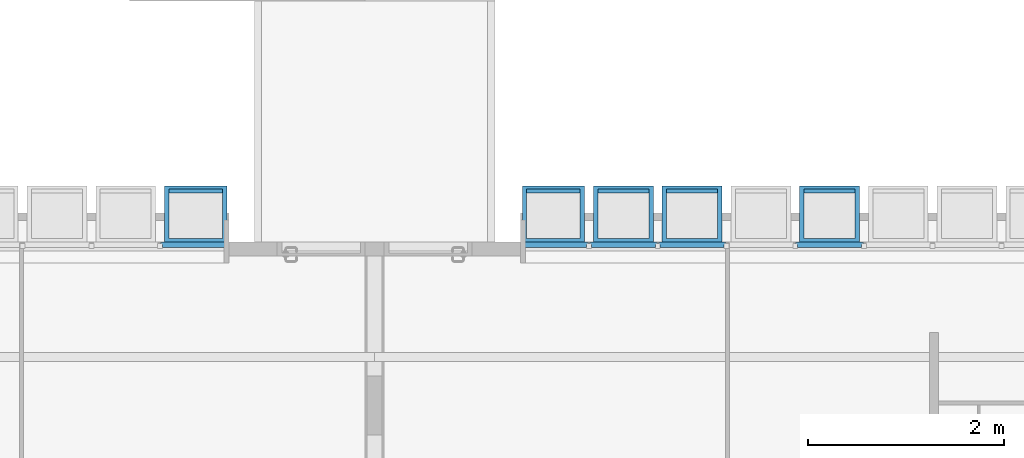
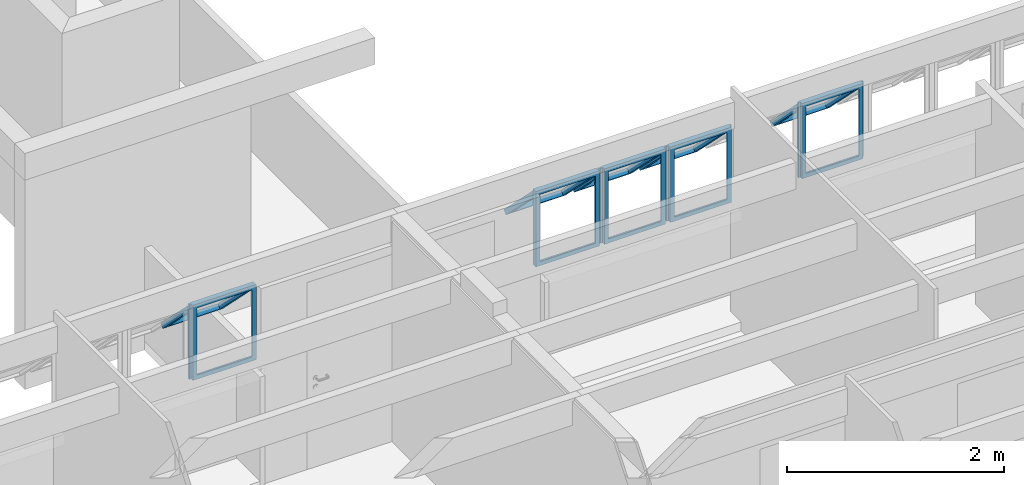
# One storey, part 30 of 37: 5 building element parts, 7 elements without a shape of their own.
"""IFC2X3 building model written with IfcOpenShell, lengths in millimetres."""

from ifc_helpers import new_model, entity, si_unit, converted_unit, derived_unit, money_unit, direction, frame, origin_with_axes, place, context, subcontext, project, spatial, faceted_brep, source, transform, mapped, material, type_object, element, aggregate, save


model = new_model("IFC2X3")

# Units and contexts
model_context = context("Model", 3, precision=0.01, world=origin_with_axes(), true_north=direction((0.0, 1.0)))
body_context = subcontext(model_context, "Body", "Model", "MODEL_VIEW")
ifc_project = project(units=[si_unit("LENGTHUNIT", "METRE", prefix="MILLI"), si_unit("AREAUNIT", "SQUARE_METRE"), si_unit("VOLUMEUNIT", "CUBIC_METRE"), converted_unit("PLANEANGLEUNIT", "DEGREE", entity("IfcPlaneAngleMeasure", 0.0174532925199), si_unit("PLANEANGLEUNIT", "RADIAN"), dimensions=[0, 0, 0, 0, 0, 0, 0]), money_unit("USD"), converted_unit("TIMEUNIT", "Year", entity("IfcTimeMeasure", 31556926.0), si_unit("TIMEUNIT", "SECOND"), dimensions=[0, 0, 1, 0, 0, 0, 0]), si_unit("MASSUNIT", "GRAM", prefix="KILO"), si_unit("THERMODYNAMICTEMPERATUREUNIT", "DEGREE_CELSIUS"), si_unit("LUMINOUSINTENSITYUNIT", "LUMEN"), si_unit("ENERGYUNIT", "JOULE", prefix="MEGA"), derived_unit("THERMALCONDUCTANCEUNIT", [(si_unit("POWERUNIT", "WATT"), 1), (si_unit("LENGTHUNIT", "METRE"), -1), (si_unit("THERMODYNAMICTEMPERATUREUNIT", "KELVIN"), -1)]), derived_unit("SPECIFICHEATCAPACITYUNIT", [(si_unit("ENERGYUNIT", "JOULE"), 1), (si_unit("MASSUNIT", "GRAM", prefix="KILO"), -1), (si_unit("THERMODYNAMICTEMPERATUREUNIT", "KELVIN"), -1)]), derived_unit("MASSDENSITYUNIT", [(si_unit("MASSUNIT", "GRAM", prefix="KILO"), 1), (si_unit("VOLUMEUNIT", "CUBIC_METRE"), -1)])], contexts=[model_context])

# Site, building, storey
site_placement = place(None, origin_with_axes())
site = spatial("IfcSite", under=ifc_project, at=site_placement, Name="Local", CompositionType="ELEMENT")
building_placement = place(site_placement, origin_with_axes())
building = spatial("IfcBuilding", under=site, at=building_placement, Name="Construção", CompositionType="ELEMENT")
storey_placement = place(building_placement, frame((0.0, 0.0, 5300.0), z_axis=(0.0, 0.0, 1.0), x_axis=(1.0, 0.0, 0.0)))
storey = spatial("IfcBuildingStorey", under=building, at=storey_placement, Name="Terceiro Pavimento", CompositionType="ELEMENT", Elevation=5300.0)

# Window, plates, building element parts
window_style = type_object("IfcWindowStyle", Name="Tipo de Parede Cortina", ConstructionType="NOTDEFINED", OperationType="NOTDEFINED", ParameterTakesPrecedence=False, Sizeable=False)
window_1_placement = place(storey_placement, frame((12020.0, 8250.0, 1355.00007107), z_axis=(0.0, 0.0, 1.0), x_axis=(1.0, 0.0, 0.0)))
window_1 = element("IfcWindow", 1, at=window_1_placement, inside=storey, type_object=window_style, Name="APTO10-JANELA-000")
plate_type_1 = type_object("IfcPlateType", Name="Painel Principal 690 x 845 x 20", PredefinedType="CURTAIN_PANEL")
plate_1_placement = place(window_1_placement, frame((0.0, 0.0, 422.499964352), z_axis=(0.0, 0.0, 1.0), x_axis=(1.0, 0.0, 0.0)))
plate_1 = element("IfcPlate", 2, at=plate_1_placement, type_object=plate_type_1, Name="APTO10-Painel-Prin-013")
ifc_material = material(Name="Alumínio")
shared_shape_1 = source(origin_with_axes(), body_context, "Body", "Brep", [
    faceted_brep([(25.0000036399, 0.0, -40.0), (674.999997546, 0.0, -40.0), (674.999997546, 0.0, -35.0), (25.0000036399, 0.0, -35.0), (70.0000036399, 45.0, -40.0), (629.999997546, 45.0, -40.0), (629.999997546, 45.0, -35.0), (70.0000036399, 45.0, -35.0)], [[[0, 1, 2, 3]], [[0, 4, 5, 1]], [[1, 5, 6, 2]], [[3, 2, 6, 7]], [[4, 0, 3, 7]], [[5, 4, 7, 6]]]),
    faceted_brep([(674.999997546, 0.0, -40.0), (674.999997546, 844.999891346, -40.0), (674.999997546, 844.999891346, -35.0), (674.999997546, 0.0, -35.0), (629.999997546, 45.0, -40.0), (629.999997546, 799.999891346, -40.0), (629.999997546, 799.999891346, -35.0), (629.999997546, 45.0, -35.0)], [[[0, 1, 2, 3]], [[0, 4, 5, 1]], [[1, 5, 6, 2]], [[3, 2, 6, 7]], [[4, 0, 3, 7]], [[5, 4, 7, 6]]]),
    faceted_brep([(25.0000036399, 844.999891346, -40.0), (70.0000036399, 799.999891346, -40.0), (70.0000036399, 799.999891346, -35.0), (25.0000036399, 844.999891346, -35.0), (674.999997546, 844.999891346, -40.0), (629.999997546, 799.999891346, -40.0), (629.999997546, 799.999891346, -35.0), (674.999997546, 844.999891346, -35.0)], [[[0, 1, 2, 3]], [[0, 4, 5, 1]], [[1, 5, 6, 2]], [[3, 2, 6, 7]], [[4, 0, 3, 7]], [[5, 4, 7, 6]]]),
    faceted_brep([(25.0000036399, 0.0, -40.0), (70.0000036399, 45.0, -40.0), (70.0000036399, 45.0, -35.0), (25.0000036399, 0.0, -35.0), (25.0000036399, 844.999891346, -40.0), (70.0000036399, 799.999891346, -40.0), (70.0000036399, 799.999891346, -35.0), (25.0000036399, 844.999891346, -35.0)], [[[0, 1, 2, 3]], [[0, 4, 5, 1]], [[1, 5, 6, 2]], [[3, 2, 6, 7]], [[4, 0, 3, 7]], [[5, 4, 7, 6]]]),
    faceted_brep([(25.0000036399, 0.0, -35.0), (674.999997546, 0.0, -35.0), (674.999997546, 0.0, 15.0), (25.0000036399, 0.0, 15.0), (45.0000036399, 20.0, -35.0), (654.999997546, 20.0, -35.0), (654.999997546, 20.0, 15.0), (45.0000036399, 20.0, 15.0)], [[[0, 1, 2, 3]], [[0, 4, 5, 1]], [[1, 5, 6, 2]], [[3, 2, 6, 7]], [[4, 0, 3, 7]], [[5, 4, 7, 6]]]),
    faceted_brep([(674.999997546, 0.0, -35.0), (674.999997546, 844.999891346, -35.0), (674.999997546, 844.999891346, 15.0), (674.999997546, 0.0, 15.0), (654.999997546, 20.0, -35.0), (654.999997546, 824.999891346, -35.0), (654.999997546, 824.999891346, 15.0), (654.999997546, 20.0, 15.0)], [[[0, 1, 2, 3]], [[0, 4, 5, 1]], [[1, 5, 6, 2]], [[3, 2, 6, 7]], [[4, 0, 3, 7]], [[5, 4, 7, 6]]]),
    faceted_brep([(25.0000036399, 844.999891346, -35.0), (45.0000036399, 824.999891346, -35.0), (45.0000036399, 824.999891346, 15.0), (25.0000036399, 844.999891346, 15.0), (674.999997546, 844.999891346, -35.0), (654.999997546, 824.999891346, -35.0), (654.999997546, 824.999891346, 15.0), (674.999997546, 844.999891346, 15.0)], [[[0, 1, 2, 3]], [[0, 4, 5, 1]], [[1, 5, 6, 2]], [[3, 2, 6, 7]], [[4, 0, 3, 7]], [[5, 4, 7, 6]]]),
    faceted_brep([(25.0000036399, 0.0, -35.0), (45.0000036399, 20.0, -35.0), (45.0000036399, 20.0, 15.0), (25.0000036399, 0.0, 15.0), (25.0000036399, 844.999891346, -35.0), (45.0000036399, 824.999891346, -35.0), (45.0000036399, 824.999891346, 15.0), (25.0000036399, 844.999891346, 15.0)], [[[0, 1, 2, 3]], [[0, 4, 5, 1]], [[1, 5, 6, 2]], [[3, 2, 6, 7]], [[4, 0, 3, 7]], [[5, 4, 7, 6]]]),
    faceted_brep([(694.999995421, 0.0, -10.0), (694.999995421, 844.999891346, -10.0), (694.999995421, 844.999891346, 10.0), (694.999995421, 0.0, 10.0), (674.999997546, 0.0, -10.0), (674.999997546, 844.999891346, -10.0), (674.999997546, 844.999891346, 10.0), (674.999997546, 0.0, 10.0)], [[[0, 1, 2, 3]], [[0, 4, 5, 1]], [[1, 5, 6, 2]], [[3, 2, 6, 7]], [[4, 0, 3, 7]], [[5, 4, 7, 6]]]),
    faceted_brep([(5.00000576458, 844.999891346, -10.0), (5.00000576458, 0.0, -10.0), (5.00000576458, 0.0, 10.0), (5.00000576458, 844.999891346, 10.0), (25.0000036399, 844.999891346, -10.0), (25.0000036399, 0.0, -10.0), (25.0000036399, 0.0, 10.0), (25.0000036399, 844.999891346, 10.0)], [[[0, 1, 2, 3]], [[0, 4, 5, 1]], [[1, 5, 6, 2]], [[3, 2, 6, 7]], [[4, 0, 3, 7]], [[5, 4, 7, 6]]]),
    faceted_brep([(90.0000036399, 252.243475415, 517.045737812), (90.0000036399, 757.824747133, 11.4644660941), (90.0000036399, 796.715620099, 50.3553390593), (90.0000036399, 291.13434838, 555.936610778), (45.0000036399, 220.423670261, 548.865542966), (45.0000036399, 789.644552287, -20.3553390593), (45.0000036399, 828.535425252, 18.5355339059), (45.0000036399, 259.314543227, 587.756415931)], [[[0, 1, 2, 3]], [[0, 4, 5, 1]], [[1, 5, 6, 2]], [[3, 2, 6, 7]], [[4, 0, 3, 7]], [[5, 4, 7, 6]]]),
    faceted_brep([(654.999997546, 220.423670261, 548.865542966), (654.999997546, 789.644552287, -20.3553390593), (654.999997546, 828.535425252, 18.5355339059), (654.999997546, 259.314543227, 587.756415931), (609.999997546, 252.243475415, 517.045737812), (609.999997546, 757.824747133, 11.4644660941), (609.999997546, 796.715620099, 50.3553390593), (609.999997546, 291.13434838, 555.936610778)], [[[0, 1, 2, 3]], [[0, 4, 5, 1]], [[1, 5, 6, 2]], [[3, 2, 6, 7]], [[4, 0, 3, 7]], [[5, 4, 7, 6]]]),
    faceted_brep([(654.999997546, 220.423670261, 548.865542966), (609.999997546, 252.243475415, 517.045737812), (609.999997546, 291.13434838, 555.936610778), (654.999997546, 259.314543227, 587.756415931), (45.0000036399, 220.423670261, 548.865542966), (90.0000036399, 252.243475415, 517.045737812), (90.0000036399, 291.13434838, 555.936610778), (45.0000036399, 259.314543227, 587.756415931)], [[[0, 1, 2, 3]], [[0, 4, 5, 1]], [[1, 5, 6, 2]], [[3, 2, 6, 7]], [[4, 0, 3, 7]], [[5, 4, 7, 6]]]),
    faceted_brep([(45.0000036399, 789.644552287, -20.3553390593), (90.0000036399, 757.824747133, 11.4644660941), (90.0000036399, 796.715620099, 50.3553390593), (45.0000036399, 828.535425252, 18.5355339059), (654.999997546, 789.644552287, -20.3553390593), (609.999997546, 757.824747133, 11.4644660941), (609.999997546, 796.715620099, 50.3553390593), (654.999997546, 828.535425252, 18.5355339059)], [[[0, 1, 2, 3]], [[0, 4, 5, 1]], [[1, 5, 6, 2]], [[3, 2, 6, 7]], [[4, 0, 3, 7]], [[5, 4, 7, 6]]]),
])
building_element_part_1_placement = place(plate_1_placement, origin_with_axes())
building_element_part_1 = element("IfcBuildingElementPart", 3, at=building_element_part_1_placement, material=ifc_material, Name="Alumínio", context=body_context, shape_type="MappedRepresentation", body=[
    mapped(shared_shape_1, transform((350.0, 0.0, -422.499964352), x_axis=(-1.0, 0.0, 0.0), y_axis=(0.0, 0.0, 1.0), z_axis=(0.0, 1.0, 0.0))),
])
aggregate(plate_1, [building_element_part_1])
plate_2_placement = place(window_1_placement, frame((-2100.0, 0.0, 422.499964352), z_axis=(0.0, 0.0, 1.0), x_axis=(1.0, 0.0, 0.0)))
plate_2 = element("IfcPlate", 4, at=plate_2_placement, type_object=plate_type_1, Name="APTO10-Painel-Prin-029")
building_element_part_2_placement = place(plate_2_placement, origin_with_axes())
building_element_part_2 = element("IfcBuildingElementPart", 5, at=building_element_part_2_placement, material=ifc_material, Name="Alumínio", context=body_context, shape_type="MappedRepresentation", body=[
    mapped(shared_shape_1, transform((350.0, 0.0, -422.499964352), x_axis=(-1.0, 0.0, 0.0), y_axis=(0.0, 0.0, 1.0), z_axis=(0.0, 1.0, 0.0))),
])
aggregate(plate_2, [building_element_part_2])
plate_3_placement = place(window_1_placement, frame((-1400.0, 0.0, 422.499964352), z_axis=(0.0, 0.0, 1.0), x_axis=(1.0, 0.0, 0.0)))
plate_3 = element("IfcPlate", 6, at=plate_3_placement, type_object=plate_type_1, Name="APTO10-Painel-Prin-025")
shared_shape_2 = source(origin_with_axes(), body_context, "Body", "Brep", [
    faceted_brep([(25.0000036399, 0.0, -40.0), (674.999997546, 0.0, -40.0), (674.999997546, 0.0, -35.0), (25.0000036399, 0.0, -35.0), (70.0000036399, 45.0, -40.0), (629.999997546, 45.0, -40.0), (629.999997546, 45.0, -35.0), (70.0000036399, 45.0, -35.0)], [[[0, 1, 2, 3]], [[0, 4, 5, 1]], [[1, 5, 6, 2]], [[3, 2, 6, 7]], [[4, 0, 3, 7]], [[5, 4, 7, 6]]]),
    faceted_brep([(674.999997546, 0.0, -40.0), (674.999997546, 844.999891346, -40.0), (674.999997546, 844.999891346, -35.0), (674.999997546, 0.0, -35.0), (629.999997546, 45.0, -40.0), (629.999997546, 799.999891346, -40.0), (629.999997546, 799.999891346, -35.0), (629.999997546, 45.0, -35.0)], [[[0, 1, 2, 3]], [[0, 4, 5, 1]], [[1, 5, 6, 2]], [[3, 2, 6, 7]], [[4, 0, 3, 7]], [[5, 4, 7, 6]]]),
    faceted_brep([(25.0000036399, 844.999891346, -40.0), (70.0000036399, 799.999891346, -40.0), (70.0000036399, 799.999891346, -35.0), (25.0000036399, 844.999891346, -35.0), (674.999997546, 844.999891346, -40.0), (629.999997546, 799.999891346, -40.0), (629.999997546, 799.999891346, -35.0), (674.999997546, 844.999891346, -35.0)], [[[0, 1, 2, 3]], [[0, 4, 5, 1]], [[1, 5, 6, 2]], [[3, 2, 6, 7]], [[4, 0, 3, 7]], [[5, 4, 7, 6]]]),
    faceted_brep([(25.0000036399, 0.0, -40.0), (70.0000036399, 45.0, -40.0), (70.0000036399, 45.0, -35.0), (25.0000036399, 0.0, -35.0), (25.0000036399, 844.999891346, -40.0), (70.0000036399, 799.999891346, -40.0), (70.0000036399, 799.999891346, -35.0), (25.0000036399, 844.999891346, -35.0)], [[[0, 1, 2, 3]], [[0, 4, 5, 1]], [[1, 5, 6, 2]], [[3, 2, 6, 7]], [[4, 0, 3, 7]], [[5, 4, 7, 6]]]),
    faceted_brep([(25.0000036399, 0.0, -35.0), (674.999997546, 0.0, -35.0), (674.999997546, 0.0, 15.0), (25.0000036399, 0.0, 15.0), (45.0000036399, 20.0, -35.0), (654.999997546, 20.0, -35.0), (654.999997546, 20.0, 15.0), (45.0000036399, 20.0, 15.0)], [[[0, 1, 2, 3]], [[0, 4, 5, 1]], [[1, 5, 6, 2]], [[3, 2, 6, 7]], [[4, 0, 3, 7]], [[5, 4, 7, 6]]]),
    faceted_brep([(674.999997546, 0.0, -35.0), (674.999997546, 844.999891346, -35.0), (674.999997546, 844.999891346, 15.0), (674.999997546, 0.0, 15.0), (654.999997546, 20.0, -35.0), (654.999997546, 824.999891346, -35.0), (654.999997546, 824.999891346, 15.0), (654.999997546, 20.0, 15.0)], [[[0, 1, 2, 3]], [[0, 4, 5, 1]], [[1, 5, 6, 2]], [[3, 2, 6, 7]], [[4, 0, 3, 7]], [[5, 4, 7, 6]]]),
    faceted_brep([(25.0000036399, 844.999891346, -35.0), (45.0000036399, 824.999891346, -35.0), (45.0000036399, 824.999891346, 15.0), (25.0000036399, 844.999891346, 15.0), (674.999997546, 844.999891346, -35.0), (654.999997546, 824.999891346, -35.0), (654.999997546, 824.999891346, 15.0), (674.999997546, 844.999891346, 15.0)], [[[0, 1, 2, 3]], [[0, 4, 5, 1]], [[1, 5, 6, 2]], [[3, 2, 6, 7]], [[4, 0, 3, 7]], [[5, 4, 7, 6]]]),
    faceted_brep([(25.0000036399, 0.0, -35.0), (45.0000036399, 20.0, -35.0), (45.0000036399, 20.0, 15.0), (25.0000036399, 0.0, 15.0), (25.0000036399, 844.999891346, -35.0), (45.0000036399, 824.999891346, -35.0), (45.0000036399, 824.999891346, 15.0), (25.0000036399, 844.999891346, 15.0)], [[[0, 1, 2, 3]], [[0, 4, 5, 1]], [[1, 5, 6, 2]], [[3, 2, 6, 7]], [[4, 0, 3, 7]], [[5, 4, 7, 6]]]),
    faceted_brep([(694.999995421, 0.0, -10.0), (694.999995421, 844.999891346, -10.0), (694.999995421, 844.999891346, 10.0), (694.999995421, 0.0, 10.0), (674.999997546, 0.0, -10.0), (674.999997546, 844.999891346, -10.0), (674.999997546, 844.999891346, 10.0), (674.999997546, 0.0, 10.0)], [[[0, 1, 2, 3]], [[0, 4, 5, 1]], [[1, 5, 6, 2]], [[3, 2, 6, 7]], [[4, 0, 3, 7]], [[5, 4, 7, 6]]]),
    faceted_brep([(5.00000576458, 844.999891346, -10.0), (5.00000576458, 0.0, -10.0), (5.00000576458, 0.0, 10.0), (5.00000576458, 844.999891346, 10.0), (25.0000036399, 844.999891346, -10.0), (25.0000036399, 0.0, -10.0), (25.0000036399, 0.0, 10.0), (25.0000036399, 844.999891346, 10.0)], [[[0, 1, 2, 3]], [[0, 4, 5, 1]], [[1, 5, 6, 2]], [[3, 2, 6, 7]], [[4, 0, 3, 7]], [[5, 4, 7, 6]]]),
    faceted_brep([(90.0000036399, 252.243475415, 517.045737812), (90.0000036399, 757.824747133, 11.4644660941), (90.0000036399, 796.715620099, 50.3553390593), (90.0000036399, 291.13434838, 555.936610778), (45.0000036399, 220.423670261, 548.865542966), (45.0000036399, 789.644552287, -20.3553390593), (45.0000036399, 828.535425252, 18.5355339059), (45.0000036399, 259.314543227, 587.756415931)], [[[0, 1, 2, 3]], [[0, 4, 5, 1]], [[1, 5, 6, 2]], [[3, 2, 6, 7]], [[4, 0, 3, 7]], [[5, 4, 7, 6]]]),
    faceted_brep([(654.999997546, 220.423670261, 548.865542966), (654.999997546, 789.644552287, -20.3553390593), (654.999997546, 828.535425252, 18.5355339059), (654.999997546, 259.314543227, 587.756415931), (609.999997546, 252.243475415, 517.045737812), (609.999997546, 757.824747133, 11.4644660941), (609.999997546, 796.715620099, 50.3553390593), (609.999997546, 291.13434838, 555.936610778)], [[[0, 1, 2, 3]], [[0, 4, 5, 1]], [[1, 5, 6, 2]], [[3, 2, 6, 7]], [[4, 0, 3, 7]], [[5, 4, 7, 6]]]),
    faceted_brep([(654.999997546, 220.423670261, 548.865542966), (609.999997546, 252.243475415, 517.045737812), (609.999997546, 291.13434838, 555.936610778), (654.999997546, 259.314543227, 587.756415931), (45.0000036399, 220.423670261, 548.865542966), (90.0000036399, 252.243475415, 517.045737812), (90.0000036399, 291.13434838, 555.936610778), (45.0000036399, 259.314543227, 587.756415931)], [[[0, 1, 2, 3]], [[0, 4, 5, 1]], [[1, 5, 6, 2]], [[3, 2, 6, 7]], [[4, 0, 3, 7]], [[5, 4, 7, 6]]]),
    faceted_brep([(45.0000036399, 789.644552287, -20.3553390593), (90.0000036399, 757.824747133, 11.4644660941), (90.0000036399, 796.715620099, 50.3553390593), (45.0000036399, 828.535425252, 18.5355339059), (654.999997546, 789.644552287, -20.3553390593), (609.999997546, 757.824747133, 11.4644660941), (609.999997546, 796.715620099, 50.3553390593), (654.999997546, 828.535425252, 18.5355339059)], [[[0, 1, 2, 3]], [[0, 4, 5, 1]], [[1, 5, 6, 2]], [[3, 2, 6, 7]], [[4, 0, 3, 7]], [[5, 4, 7, 6]]]),
])
building_element_part_3_placement = place(plate_3_placement, origin_with_axes())
building_element_part_3 = element("IfcBuildingElementPart", 7, at=building_element_part_3_placement, material=ifc_material, Name="Alumínio", context=body_context, shape_type="MappedRepresentation", body=[
    mapped(shared_shape_2, transform((350.0, 0.0, -422.499964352), x_axis=(-1.0, 0.0, 0.0), y_axis=(0.0, 0.0, 1.0), z_axis=(0.0, 1.0, 0.0))),
])
aggregate(plate_3, [building_element_part_3])

# Window, plate, building element part
window_2_placement = place(storey_placement, frame((2750.0, 8250.0, 1355.00007107), z_axis=(0.0, 0.0, 1.0), x_axis=(1.0, 0.0, 0.0)))
window_2 = element("IfcWindow", 8, at=window_2_placement, inside=storey, type_object=window_style, Name="APTO9-JANELA-000")
plate_type_2 = type_object("IfcPlateType", Name="Painel Principal 695 x 845 x 20", PredefinedType="CURTAIN_PANEL")
plate_4_placement = place(window_2_placement, frame((2800.0, 0.0, 422.499986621), z_axis=(0.0, 0.0, 1.0), x_axis=(-1.0, 0.0, 0.0)))
plate_4 = element("IfcPlate", 9, at=plate_4_placement, type_object=plate_type_2, Name="APTO9-Painel-Prin-020")
aggregate(window_2, [plate_4])
shared_shape_3 = source(origin_with_axes(), body_context, "Body", "Brep", [
    faceted_brep([(-25.0000062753, 0.0, -40.0), (-25.0000062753, 0.0, -35.0), (-699.999999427, 0.0, -35.0), (-699.999999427, 0.0, -40.0), (-70.0000062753, 45.0, -40.0), (-70.0000062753, 45.0, -35.0), (-654.999999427, 45.0, -35.0), (-654.999999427, 45.0, -40.0)], [[[0, 1, 2, 3]], [[4, 5, 1, 0]], [[1, 5, 6, 2]], [[3, 2, 6, 7]], [[0, 3, 7, 4]], [[7, 6, 5, 4]]]),
    faceted_brep([(-699.999999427, 0.0, -40.0), (-699.999999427, 0.0, -35.0), (-699.999999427, 844.999980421, -35.0), (-699.999999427, 844.999980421, -40.0), (-654.999999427, 45.0, -40.0), (-654.999999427, 45.0, -35.0), (-654.999999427, 799.999980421, -35.0), (-654.999999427, 799.999980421, -40.0)], [[[0, 1, 2, 3]], [[4, 5, 1, 0]], [[1, 5, 6, 2]], [[3, 2, 6, 7]], [[0, 3, 7, 4]], [[7, 6, 5, 4]]]),
    faceted_brep([(-25.0000062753, 844.999980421, -40.0), (-25.0000062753, 844.999980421, -35.0), (-70.0000062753, 799.999980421, -35.0), (-70.0000062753, 799.999980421, -40.0), (-699.999999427, 844.999980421, -40.0), (-699.999999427, 844.999980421, -35.0), (-654.999999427, 799.999980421, -35.0), (-654.999999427, 799.999980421, -40.0)], [[[0, 1, 2, 3]], [[4, 5, 1, 0]], [[1, 5, 6, 2]], [[3, 2, 6, 7]], [[0, 3, 7, 4]], [[7, 6, 5, 4]]]),
    faceted_brep([(-25.0000062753, 0.0, -40.0), (-25.0000062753, 0.0, -35.0), (-70.0000062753, 45.0, -35.0), (-70.0000062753, 45.0, -40.0), (-25.0000062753, 844.999980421, -40.0), (-25.0000062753, 844.999980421, -35.0), (-70.0000062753, 799.999980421, -35.0), (-70.0000062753, 799.999980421, -40.0)], [[[0, 1, 2, 3]], [[4, 5, 1, 0]], [[1, 5, 6, 2]], [[3, 2, 6, 7]], [[0, 3, 7, 4]], [[7, 6, 5, 4]]]),
    faceted_brep([(-25.0000062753, 0.0, -35.0), (-25.0000062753, 0.0, 15.0), (-699.999999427, 0.0, 15.0), (-699.999999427, 0.0, -35.0), (-45.0000062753, 20.0, -35.0), (-45.0000062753, 20.0, 15.0), (-679.999999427, 20.0, 15.0), (-679.999999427, 20.0, -35.0)], [[[0, 1, 2, 3]], [[4, 5, 1, 0]], [[1, 5, 6, 2]], [[3, 2, 6, 7]], [[0, 3, 7, 4]], [[7, 6, 5, 4]]]),
    faceted_brep([(-699.999999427, 0.0, -35.0), (-699.999999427, 0.0, 15.0), (-699.999999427, 844.999980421, 15.0), (-699.999999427, 844.999980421, -35.0), (-679.999999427, 20.0, -35.0), (-679.999999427, 20.0, 15.0), (-679.999999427, 824.999980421, 15.0), (-679.999999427, 824.999980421, -35.0)], [[[0, 1, 2, 3]], [[4, 5, 1, 0]], [[1, 5, 6, 2]], [[3, 2, 6, 7]], [[0, 3, 7, 4]], [[7, 6, 5, 4]]]),
    faceted_brep([(-25.0000062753, 844.999980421, -35.0), (-25.0000062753, 844.999980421, 15.0), (-45.0000062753, 824.999980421, 15.0), (-45.0000062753, 824.999980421, -35.0), (-699.999999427, 844.999980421, -35.0), (-699.999999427, 844.999980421, 15.0), (-679.999999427, 824.999980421, 15.0), (-679.999999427, 824.999980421, -35.0)], [[[0, 1, 2, 3]], [[4, 5, 1, 0]], [[1, 5, 6, 2]], [[3, 2, 6, 7]], [[0, 3, 7, 4]], [[7, 6, 5, 4]]]),
    faceted_brep([(-25.0000062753, 0.0, -35.0), (-25.0000062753, 0.0, 15.0), (-45.0000062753, 20.0, 15.0), (-45.0000062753, 20.0, -35.0), (-25.0000062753, 844.999980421, -35.0), (-25.0000062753, 844.999980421, 15.0), (-45.0000062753, 824.999980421, 15.0), (-45.0000062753, 824.999980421, -35.0)], [[[0, 1, 2, 3]], [[4, 5, 1, 0]], [[1, 5, 6, 2]], [[3, 2, 6, 7]], [[0, 3, 7, 4]], [[7, 6, 5, 4]]]),
    faceted_brep([(-5.00000629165, 844.999980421, -10.0), (-5.00000629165, 844.999980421, 10.0), (-5.00000629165, 0.0, 10.0), (-5.00000629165, 0.0, -10.0), (-25.0000062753, 844.999980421, -10.0), (-25.0000062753, 844.999980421, 10.0), (-25.0000062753, 0.0, 10.0), (-25.0000062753, 0.0, -10.0)], [[[0, 1, 2, 3]], [[4, 5, 1, 0]], [[1, 5, 6, 2]], [[3, 2, 6, 7]], [[0, 3, 7, 4]], [[7, 6, 5, 4]]]),
    faceted_brep([(-90.0000062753, 252.243501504, 517.045800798), (-90.0000062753, 291.134374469, 555.936673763), (-90.0000062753, 796.715709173, 50.3553390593), (-90.0000062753, 757.824836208, 11.4644660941), (-45.0000062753, 220.423696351, 548.865605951), (-45.0000062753, 259.314569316, 587.756478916), (-45.0000062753, 828.535514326, 18.5355339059), (-45.0000062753, 789.644641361, -20.3553390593)], [[[0, 1, 2, 3]], [[4, 5, 1, 0]], [[1, 5, 6, 2]], [[3, 2, 6, 7]], [[0, 3, 7, 4]], [[7, 6, 5, 4]]]),
    faceted_brep([(-679.999999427, 220.423696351, 548.865605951), (-679.999999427, 259.314569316, 587.756478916), (-679.999999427, 828.535514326, 18.5355339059), (-679.999999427, 789.644641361, -20.3553390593), (-634.999999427, 252.243501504, 517.045800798), (-634.999999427, 291.134374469, 555.936673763), (-634.999999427, 796.715709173, 50.3553390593), (-634.999999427, 757.824836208, 11.4644660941)], [[[0, 1, 2, 3]], [[4, 5, 1, 0]], [[1, 5, 6, 2]], [[3, 2, 6, 7]], [[0, 3, 7, 4]], [[7, 6, 5, 4]]]),
    faceted_brep([(-679.999999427, 220.423696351, 548.865605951), (-679.999999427, 259.314569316, 587.756478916), (-634.999999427, 291.134374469, 555.936673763), (-634.999999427, 252.243501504, 517.045800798), (-45.0000062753, 220.423696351, 548.865605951), (-45.0000062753, 259.314569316, 587.756478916), (-90.0000062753, 291.134374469, 555.936673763), (-90.0000062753, 252.243501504, 517.045800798)], [[[0, 1, 2, 3]], [[4, 5, 1, 0]], [[1, 5, 6, 2]], [[3, 2, 6, 7]], [[0, 3, 7, 4]], [[7, 6, 5, 4]]]),
    faceted_brep([(-45.0000062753, 789.644641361, -20.3553390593), (-45.0000062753, 828.535514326, 18.5355339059), (-90.0000062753, 796.715709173, 50.3553390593), (-90.0000062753, 757.824836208, 11.4644660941), (-679.999999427, 789.644641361, -20.3553390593), (-679.999999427, 828.535514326, 18.5355339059), (-634.999999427, 796.715709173, 50.3553390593), (-634.999999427, 757.824836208, 11.4644660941)], [[[0, 1, 2, 3]], [[4, 5, 1, 0]], [[1, 5, 6, 2]], [[3, 2, 6, 7]], [[0, 3, 7, 4]], [[7, 6, 5, 4]]]),
])
building_element_part_4_placement = place(plate_4_placement, origin_with_axes())
building_element_part_4 = element("IfcBuildingElementPart", 10, at=building_element_part_4_placement, material=ifc_material, Name="Alumínio", context=body_context, shape_type="MappedRepresentation", body=[
    mapped(shared_shape_3, transform((350.0, 0.0, -422.499986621), x_axis=(1.0, 0.0, 0.0), y_axis=(0.0, 0.0, 1.0), z_axis=(0.0, -1.0, 0.0))),
])
aggregate(plate_4, [building_element_part_4])

# Plate
plate_5_placement = place(window_1_placement, frame((-2800.0, 0.0, 422.499986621), z_axis=(0.0, 0.0, 1.0), x_axis=(1.0, 0.0, 0.0)))
plate_5 = element("IfcPlate", 11, at=plate_5_placement, type_object=plate_type_2, Name="APTO10-Painel-Prin-020")

aggregate(window_1, [plate_1, plate_2, plate_3, plate_5])

# Building element part
shared_shape_4 = source(origin_with_axes(), body_context, "Body", "Brep", [
    faceted_brep([(25.0000062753, 0.0, -40.0), (699.999999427, 0.0, -40.0), (699.999999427, 0.0, -35.0), (25.0000062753, 0.0, -35.0), (70.0000062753, 45.0, -40.0), (654.999999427, 45.0, -40.0), (654.999999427, 45.0, -35.0), (70.0000062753, 45.0, -35.0)], [[[0, 1, 2, 3]], [[0, 4, 5, 1]], [[1, 5, 6, 2]], [[3, 2, 6, 7]], [[4, 0, 3, 7]], [[5, 4, 7, 6]]]),
    faceted_brep([(699.999999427, 0.0, -40.0), (699.999999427, 844.999980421, -40.0), (699.999999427, 844.999980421, -35.0), (699.999999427, 0.0, -35.0), (654.999999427, 45.0, -40.0), (654.999999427, 799.999980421, -40.0), (654.999999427, 799.999980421, -35.0), (654.999999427, 45.0, -35.0)], [[[0, 1, 2, 3]], [[0, 4, 5, 1]], [[1, 5, 6, 2]], [[3, 2, 6, 7]], [[4, 0, 3, 7]], [[5, 4, 7, 6]]]),
    faceted_brep([(25.0000062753, 844.999980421, -40.0), (70.0000062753, 799.999980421, -40.0), (70.0000062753, 799.999980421, -35.0), (25.0000062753, 844.999980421, -35.0), (699.999999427, 844.999980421, -40.0), (654.999999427, 799.999980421, -40.0), (654.999999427, 799.999980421, -35.0), (699.999999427, 844.999980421, -35.0)], [[[0, 1, 2, 3]], [[0, 4, 5, 1]], [[1, 5, 6, 2]], [[3, 2, 6, 7]], [[4, 0, 3, 7]], [[5, 4, 7, 6]]]),
    faceted_brep([(25.0000062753, 0.0, -40.0), (70.0000062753, 45.0, -40.0), (70.0000062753, 45.0, -35.0), (25.0000062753, 0.0, -35.0), (25.0000062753, 844.999980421, -40.0), (70.0000062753, 799.999980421, -40.0), (70.0000062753, 799.999980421, -35.0), (25.0000062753, 844.999980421, -35.0)], [[[0, 1, 2, 3]], [[0, 4, 5, 1]], [[1, 5, 6, 2]], [[3, 2, 6, 7]], [[4, 0, 3, 7]], [[5, 4, 7, 6]]]),
    faceted_brep([(25.0000062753, 0.0, -35.0), (699.999999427, 0.0, -35.0), (699.999999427, 0.0, 15.0), (25.0000062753, 0.0, 15.0), (45.0000062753, 20.0, -35.0), (679.999999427, 20.0, -35.0), (679.999999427, 20.0, 15.0), (45.0000062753, 20.0, 15.0)], [[[0, 1, 2, 3]], [[0, 4, 5, 1]], [[1, 5, 6, 2]], [[3, 2, 6, 7]], [[4, 0, 3, 7]], [[5, 4, 7, 6]]]),
    faceted_brep([(699.999999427, 0.0, -35.0), (699.999999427, 844.999980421, -35.0), (699.999999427, 844.999980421, 15.0), (699.999999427, 0.0, 15.0), (679.999999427, 20.0, -35.0), (679.999999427, 824.999980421, -35.0), (679.999999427, 824.999980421, 15.0), (679.999999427, 20.0, 15.0)], [[[0, 1, 2, 3]], [[0, 4, 5, 1]], [[1, 5, 6, 2]], [[3, 2, 6, 7]], [[4, 0, 3, 7]], [[5, 4, 7, 6]]]),
    faceted_brep([(25.0000062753, 844.999980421, -35.0), (45.0000062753, 824.999980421, -35.0), (45.0000062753, 824.999980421, 15.0), (25.0000062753, 844.999980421, 15.0), (699.999999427, 844.999980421, -35.0), (679.999999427, 824.999980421, -35.0), (679.999999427, 824.999980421, 15.0), (699.999999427, 844.999980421, 15.0)], [[[0, 1, 2, 3]], [[0, 4, 5, 1]], [[1, 5, 6, 2]], [[3, 2, 6, 7]], [[4, 0, 3, 7]], [[5, 4, 7, 6]]]),
    faceted_brep([(25.0000062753, 0.0, -35.0), (45.0000062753, 20.0, -35.0), (45.0000062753, 20.0, 15.0), (25.0000062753, 0.0, 15.0), (25.0000062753, 844.999980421, -35.0), (45.0000062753, 824.999980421, -35.0), (45.0000062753, 824.999980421, 15.0), (25.0000062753, 844.999980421, 15.0)], [[[0, 1, 2, 3]], [[0, 4, 5, 1]], [[1, 5, 6, 2]], [[3, 2, 6, 7]], [[4, 0, 3, 7]], [[5, 4, 7, 6]]]),
    faceted_brep([(5.00000629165, 844.999980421, -10.0), (5.00000629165, 0.0, -10.0), (5.00000629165, 0.0, 10.0), (5.00000629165, 844.999980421, 10.0), (25.0000062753, 844.999980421, -10.0), (25.0000062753, 0.0, -10.0), (25.0000062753, 0.0, 10.0), (25.0000062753, 844.999980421, 10.0)], [[[0, 1, 2, 3]], [[0, 4, 5, 1]], [[1, 5, 6, 2]], [[3, 2, 6, 7]], [[4, 0, 3, 7]], [[5, 4, 7, 6]]]),
    faceted_brep([(90.0000062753, 252.243501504, 517.045800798), (90.0000062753, 757.824836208, 11.4644660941), (90.0000062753, 796.715709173, 50.3553390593), (90.0000062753, 291.134374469, 555.936673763), (45.0000062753, 220.423696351, 548.865605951), (45.0000062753, 789.644641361, -20.3553390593), (45.0000062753, 828.535514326, 18.5355339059), (45.0000062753, 259.314569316, 587.756478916)], [[[0, 1, 2, 3]], [[0, 4, 5, 1]], [[1, 5, 6, 2]], [[3, 2, 6, 7]], [[4, 0, 3, 7]], [[5, 4, 7, 6]]]),
    faceted_brep([(679.999999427, 220.423696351, 548.865605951), (679.999999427, 789.644641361, -20.3553390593), (679.999999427, 828.535514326, 18.5355339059), (679.999999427, 259.314569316, 587.756478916), (634.999999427, 252.243501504, 517.045800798), (634.999999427, 757.824836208, 11.4644660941), (634.999999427, 796.715709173, 50.3553390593), (634.999999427, 291.134374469, 555.936673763)], [[[0, 1, 2, 3]], [[0, 4, 5, 1]], [[1, 5, 6, 2]], [[3, 2, 6, 7]], [[4, 0, 3, 7]], [[5, 4, 7, 6]]]),
    faceted_brep([(679.999999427, 220.423696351, 548.865605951), (634.999999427, 252.243501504, 517.045800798), (634.999999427, 291.134374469, 555.936673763), (679.999999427, 259.314569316, 587.756478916), (45.0000062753, 220.423696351, 548.865605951), (90.0000062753, 252.243501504, 517.045800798), (90.0000062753, 291.134374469, 555.936673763), (45.0000062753, 259.314569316, 587.756478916)], [[[0, 1, 2, 3]], [[0, 4, 5, 1]], [[1, 5, 6, 2]], [[3, 2, 6, 7]], [[4, 0, 3, 7]], [[5, 4, 7, 6]]]),
    faceted_brep([(45.0000062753, 789.644641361, -20.3553390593), (90.0000062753, 757.824836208, 11.4644660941), (90.0000062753, 796.715709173, 50.3553390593), (45.0000062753, 828.535514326, 18.5355339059), (679.999999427, 789.644641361, -20.3553390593), (634.999999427, 757.824836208, 11.4644660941), (634.999999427, 796.715709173, 50.3553390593), (679.999999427, 828.535514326, 18.5355339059)], [[[0, 1, 2, 3]], [[0, 4, 5, 1]], [[1, 5, 6, 2]], [[3, 2, 6, 7]], [[4, 0, 3, 7]], [[5, 4, 7, 6]]]),
])
building_element_part_5_placement = place(plate_5_placement, origin_with_axes())
building_element_part_5 = element("IfcBuildingElementPart", 12, at=building_element_part_5_placement, material=ifc_material, Name="Alumínio", context=body_context, shape_type="MappedRepresentation", body=[
    mapped(shared_shape_4, transform((350.0, 0.0, -422.499986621), x_axis=(-1.0, 0.0, 0.0), y_axis=(0.0, 0.0, 1.0), z_axis=(0.0, 1.0, 0.0))),
])

aggregate(plate_5, [building_element_part_5])

save(model, "model.ifc")
